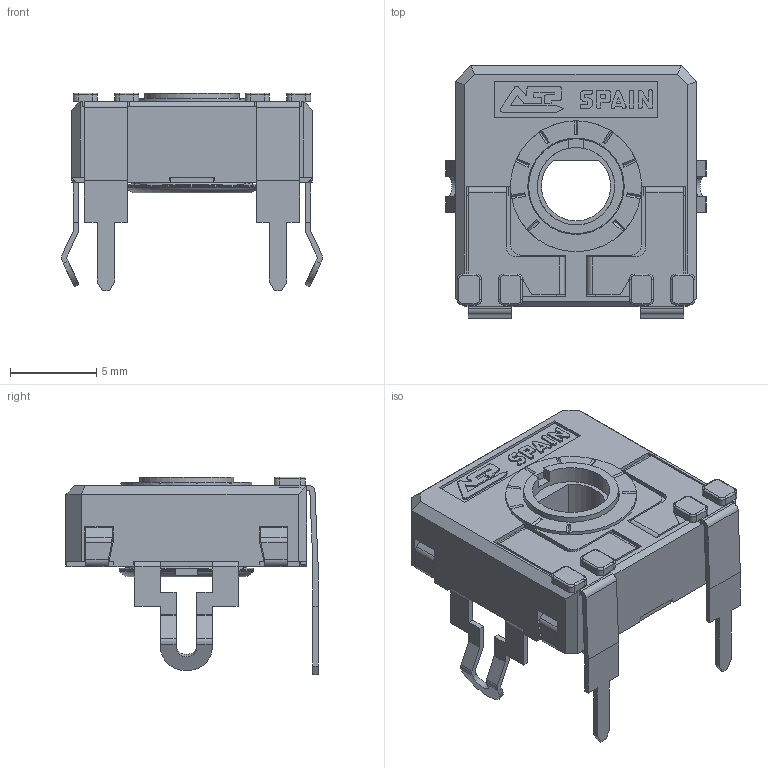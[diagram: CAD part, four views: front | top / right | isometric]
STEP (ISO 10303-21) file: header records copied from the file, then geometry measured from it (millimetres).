
FILE_DESCRIPTION(/* description */ (''),/* implementation_level */ '2;1');
FILE_NAME(/* name */ '\\SERVERACP\intercambio\Ignacio Santa Cecilia\Nueva WEB 2025\CA14 - CE14\CA14FVD7,5 RT-RO.stp',/* time_stamp */ '2025-06-12T09:30:55+02:00',/* author */ ('CEM'),/* organization */ (''),/* preprocessor_version */ 'ST-DEVELOPER v17',/* originating_system */ 'Autodesk Inventor 2018',/* authorisation */ '');
FILE_SCHEMA (('AUTOMOTIVE_DESIGN { 1 0 10303 214 3 1 1 }'));
Length unit declared in the file: millimetre
Products named in the file (1): CARCASA CA14 PGA
Bounding box: 15.16 x 14.65 x 11.5 mm (x, y, z)
Volume: 540.5 mm3; surface area: 1554.1 mm2
Topology: 1 solids, 1 shells, 730 faces, 2075 edges, 1337 vertices
Faces by surface type: plane 533, cylinder 160, torus 23, bspline 8, cone 6
Full cylindrical faces by diameter (mm): 4.5 x1, 5.5 x1, 5.6 x1, 5.752 x1, 6.8 x1, 7.6 x1
Entity records: 23987 total; most frequent: CARTESIAN_POINT 4440, ORIENTED_EDGE 4150, DIRECTION 3885, EDGE_CURVE 2075, LINE 1621, VECTOR 1621, VERTEX_POINT 1337, AXIS2_PLACEMENT_3D 1132
